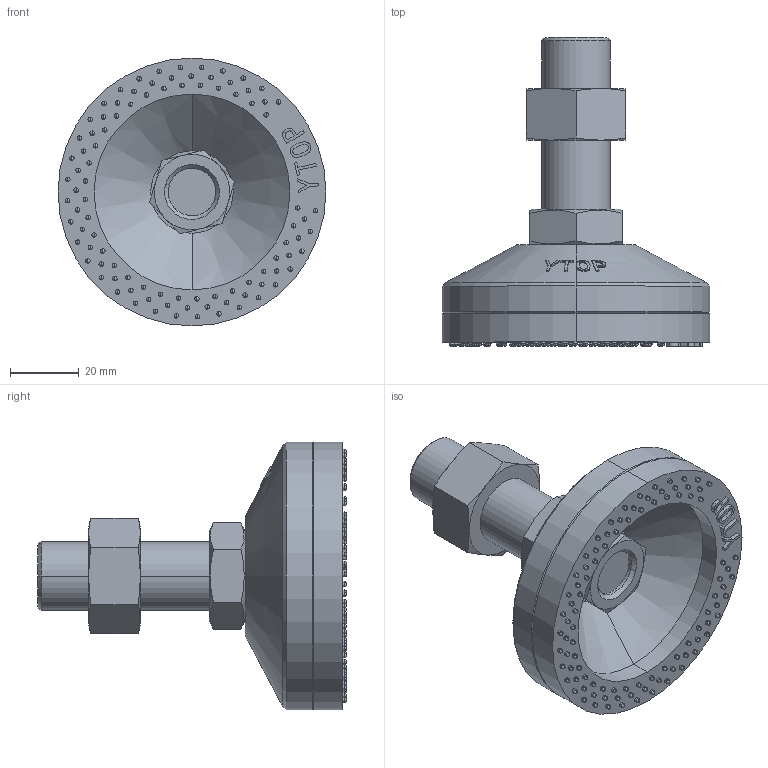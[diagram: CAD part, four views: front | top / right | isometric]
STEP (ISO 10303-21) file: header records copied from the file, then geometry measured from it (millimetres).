
FILE_DESCRIPTION (( 'STEP AP203' ), '1' );
FILE_NAME ('AH-80-2050-TPU.STEP', '2020-09-09T03:52:46', ( '' ), ( '' ), 'SwSTEP 2.0', 'SolidWorks 2016', '' );
FILE_SCHEMA (( 'CONFIG_CONTROL_DESIGN' ));
Length unit declared in the file: millimetre
Products named in the file (6): AH-80-2050-TPU; 傲郈蹟裝M20炵蹈_M20X50; AH-80蝶菜 ; AH-80菁釱 ; 脚垫调节六角螺母M20; 脚垫锁紧六角薄螺母M16
Assembly tree (5 placements, depth 2):
  AH-80-2050-TPU
    AH-80蝶菜 
    AH-80菁釱 
    脚垫锁紧六角薄螺母M16
    傲郈蹟裝M20炵蹈_M20X50
    脚垫调节六角螺母M20
Bounding box: 78 x 89.9 x 78 mm (x, y, z)
Volume: 107466.5 mm3; surface area: 37120.4 mm2
Topology: 5 solids, 5 shells, 579 faces, 1608 edges, 961 vertices
Faces by surface type: cylinder 208, sphere 190, cone 66, plane 65, bspline 50
Entity records: 20941 total; most frequent: CARTESIAN_POINT 7753, DIRECTION 2766, ORIENTED_EDGE 2456, EDGE_CURVE 1228, AXIS2_PLACEMENT_3D 1207, VERTEX_POINT 771, EDGE_LOOP 699, CIRCLE 670
